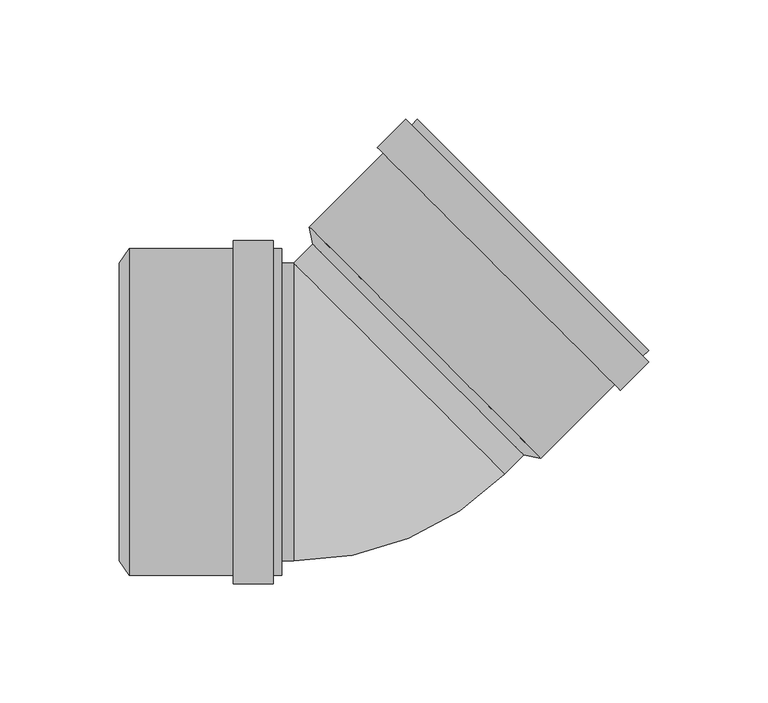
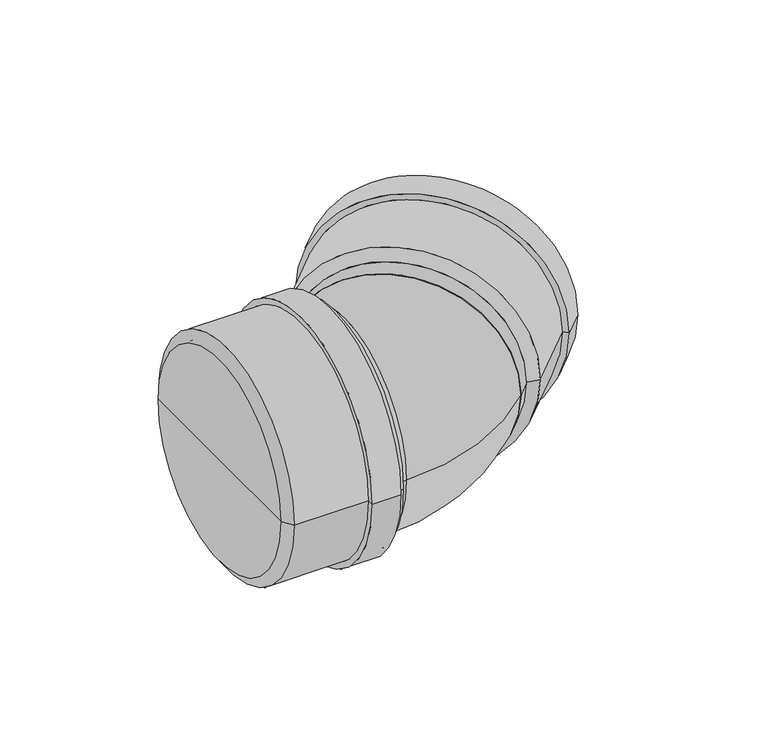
"""IFC4 building model written with IfcOpenShell, lengths in millimetres: pipe fitting geometry, pf_KGB : pf_KGB."""

from ifc_helpers import new_model, si_unit, point, frame, origin, origin_2d, place, context, project, spatial, polyline, circle_curve, ellipse_curve, trimmed, segment, composite_curve, outline, extrude, source, transform, mapped, element, save
from ifc_brep_helpers import plane_surface, cylinder_surface, revolved_surface, advanced_brep


def pipe_fitting_ef111def(model_context):
    return source(origin(), model_context, "Body", "SolidModel", [
        advanced_brep(
        [(70.4278354, -17.9605122, 0.0), (-17.9605122, 70.4278354, 0.0), (-19.3747258, 77.6403246, 0.0), (77.6403246, -19.3747258, 0.0), (26.2336616, 26.2336616, 0.0), (122.8244479, 25.8093975, 0.0), (25.8093975, 122.8244479, 0.0), (30.1227489, 118.5110965, 0.0), (118.5110965, 30.1227489, 0.0), (23.4052345, 120.4202848, 0.0), (120.4202848, 23.4052345, 0.0), (21.0010714, 122.8244479, 0.0), (122.8244479, 21.0010714, 0.0), (9.1216775, 110.945054, 0.0), (110.945054, 9.1216775, 0.0), (11.5258405, 108.5408909, 0.0), (108.5408909, 11.5258405, 0.0), (73.3269732, -15.0613744, 0.0), (-15.0613744, 73.3269732, 0.0), (29.1327994, 29.1327994, 0.0)],
        [
            (0, 1, circle_curve(frame((26.2336616, 26.2336616, 0.0), z_axis=(0.7071067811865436, 0.7071067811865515, 0.0), x_axis=(-0.7071067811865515, 0.7071067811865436, 0.0)), 62.5)),
            (1, 2),
            (2, 3, circle_curve(frame((29.1327994, 29.1327994, 0.0), z_axis=(-0.7071067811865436, -0.7071067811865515, 0.0), x_axis=(-0.7071067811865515, 0.7071067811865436, 0.0)), 68.6)),
            (3, 0),
            (1, 0, circle_curve(frame((26.2336616, 26.2336616, 0.0), z_axis=(0.7071067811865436, 0.7071067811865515, 0.0), x_axis=(-0.7071067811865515, 0.7071067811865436, 0.0)), 62.5)),
            (3, 2, circle_curve(frame((29.1327994, 29.1327994, 0.0), z_axis=(-0.7071067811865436, -0.7071067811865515, 0.0), x_axis=(-0.7071067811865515, 0.7071067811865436, 0.0)), 68.6)),
            (4, 1),
            (0, 4),
            (5, 6, circle_curve(frame((74.3169227, 74.3169227, 0.0), z_axis=(0.7071067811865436, 0.7071067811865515, 0.0), x_axis=(-0.7071067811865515, 0.7071067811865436, 0.0)), 68.6)),
            (6, 7),
            (7, 8, circle_curve(frame((74.3169227, 74.3169227, 0.0), z_axis=(-0.7071067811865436, -0.7071067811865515, 0.0), x_axis=(-0.7071067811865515, 0.7071067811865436, 0.0)), 62.5)),
            (8, 5),
            (9, 10, circle_curve(frame((71.9127596, 71.9127596, 0.0), z_axis=(0.7071067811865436, 0.7071067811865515, 0.0), x_axis=(-0.7071067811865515, 0.7071067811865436, 0.0)), 68.6)),
            (10, 5),
            (5, 6, circle_curve(frame((74.3169227, 74.3169227, 0.0), z_axis=(-0.7071067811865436, -0.7071067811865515, 0.0), x_axis=(-0.7071067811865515, 0.7071067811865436, 0.0)), 68.6)),
            (6, 9),
            (11, 12, circle_curve(frame((71.9127596, 71.9127596, 0.0), z_axis=(0.7071067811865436, 0.7071067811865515, 0.0), x_axis=(-0.7071067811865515, 0.7071067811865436, 0.0)), 72.0)),
            (12, 10),
            (9, 11),
            (13, 14, circle_curve(frame((60.0333657, 60.0333657, 0.0), z_axis=(0.7071067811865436, 0.7071067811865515, 0.0), x_axis=(-0.7071067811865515, 0.7071067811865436, 0.0)), 72.0)),
            (14, 12),
            (11, 13),
            (15, 16, circle_curve(frame((60.0333657, 60.0333657, 0.0), z_axis=(0.7071067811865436, 0.7071067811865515, 0.0), x_axis=(-0.7071067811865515, 0.7071067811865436, 0.0)), 68.6)),
            (16, 14),
            (13, 15),
            (8, 7, circle_curve(frame((74.3169227, 74.3169227, 0.0), z_axis=(-0.7071067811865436, -0.7071067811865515, 0.0), x_axis=(-0.7071067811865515, 0.7071067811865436, 0.0)), 62.5)),
            (10, 9, circle_curve(frame((71.9127596, 71.9127596, 0.0), z_axis=(0.7071067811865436, 0.7071067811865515, 0.0), x_axis=(-0.7071067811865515, 0.7071067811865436, 0.0)), 68.6)),
            (12, 11, circle_curve(frame((71.9127596, 71.9127596, 0.0), z_axis=(0.7071067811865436, 0.7071067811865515, 0.0), x_axis=(-0.7071067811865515, 0.7071067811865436, 0.0)), 72.0)),
            (14, 13, circle_curve(frame((60.0333657, 60.0333657, 0.0), z_axis=(0.7071067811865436, 0.7071067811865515, 0.0), x_axis=(-0.7071067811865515, 0.7071067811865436, 0.0)), 72.0)),
            (16, 15, circle_curve(frame((60.0333657, 60.0333657, 0.0), z_axis=(0.7071067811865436, 0.7071067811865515, 0.0), x_axis=(-0.7071067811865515, 0.7071067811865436, 0.0)), 68.6)),
            (2, 15),
            (16, 3),
            (17, 18, circle_curve(frame((29.1327994, 29.1327994, 0.0), z_axis=(0.7071067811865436, 0.7071067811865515, 0.0), x_axis=(-0.7071067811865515, 0.7071067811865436, 0.0)), 62.5)),
            (18, 19),
            (19, 17),
            (18, 17, circle_curve(frame((29.1327994, 29.1327994, 0.0), z_axis=(0.7071067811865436, 0.7071067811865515, 0.0), x_axis=(-0.7071067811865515, 0.7071067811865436, 0.0)), 62.5)),
            (7, 18),
            (17, 8),
        ],
        [
            revolved_surface(polyline([(-19.3747258, 77.6403246, 0.0), (-17.9605122, 70.4278354, 0.0)]), (26.2336616, 26.2336616, 0.0), (-0.7071067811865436, -0.7071067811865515, 0.0)),
            plane_surface(frame((26.2336616, 26.2336616, 0.0), z_axis=(-0.7071067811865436, -0.7071067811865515, 0.0), x_axis=(-0.7071067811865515, 0.7071067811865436, 0.0))),
            plane_surface(frame((74.3169227, 74.3169227, 0.0), z_axis=(0.7071067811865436, 0.7071067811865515, 0.0), x_axis=(-0.7071067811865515, 0.7071067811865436, 0.0))),
            cylinder_surface(frame((26.2336616, 26.2336616, 0.0), z_axis=(-0.7071067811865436, -0.7071067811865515, 0.0), x_axis=(-0.7071067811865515, 0.7071067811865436, 0.0)), 68.6),
            plane_surface(frame((71.9127596, 71.9127596, 0.0), z_axis=(0.7071067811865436, 0.7071067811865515, 0.0), x_axis=(-0.7071067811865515, 0.7071067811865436, 0.0))),
            cylinder_surface(frame((26.2336616, 26.2336616, 0.0), z_axis=(-0.7071067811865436, -0.7071067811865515, 0.0), x_axis=(-0.7071067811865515, 0.7071067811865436, 0.0)), 72.0),
            plane_surface(frame((60.0333657, 60.0333657, 0.0), z_axis=(-0.7071067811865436, -0.7071067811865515, 0.0), x_axis=(-0.7071067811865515, 0.7071067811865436, 0.0))),
            plane_surface(frame((29.1327994, 29.1327994, 0.0), z_axis=(0.7071067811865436, 0.7071067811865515, 0.0), x_axis=(-0.7071067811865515, 0.7071067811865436, 0.0))),
            revolved_surface(polyline([(-15.06137442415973, 73.32697322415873, 0.0), (30.122748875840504, 118.51109652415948, 0.0)]), (26.2336616, 26.2336616, 0.0), (-0.7071067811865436, -0.7071067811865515, 0.0)),
        ],
        [
            (0, [[1, 2, 3, 4]]),
            (0, [[5, -4, 6, -2]]),
            (1, [[7, -1, 8]]),
            (1, [[-8, -5, -7]]),
            (2, [[9, 10, 11, 12]]),
            (3, [[13, 14, 15, 16]]),
            (4, [[17, 18, -13, 19]]),
            (5, [[20, 21, -17, 22]]),
            (6, [[23, 24, -20, 25]]),
            (2, [[-15, -12, 26, -10]]),
            (3, [[27, -16, -9, -14]]),
            (4, [[28, -19, -27, -18]]),
            (5, [[29, -22, -28, -21]]),
            (6, [[30, -25, -29, -24]]),
            (3, [[-3, 31, -30, 32]]),
            (3, [[-6, -32, -23, -31]]),
            (7, [[33, 34, 35]]),
            (7, [[36, -35, -34]]),
            (8, [[-11, 37, -33, 38]]),
            (8, [[-26, -38, -36, -37]]),
        ],
    ),
        advanced_brep(
        [(-99.1, -62.5, 0.0), (-99.1, 62.5, 0.0), (-95.0, 68.6, 0.0), (-95.0, -68.6, 0.0), (-99.1, 0.0, 0.0), (-31.1, -68.6, 0.0), (-31.1, 68.6, 0.0), (-31.1, 62.5, 0.0), (-31.1, -62.5, 0.0), (-34.5, 68.6, 0.0), (-34.5, -68.6, 0.0), (-34.5, 72.0, 0.0), (-34.5, -72.0, 0.0), (-51.3, 72.0, 0.0), (-51.3, -72.0, 0.0), (-51.3, 68.6, 0.0), (-51.3, -68.6, 0.0), (-95.0, -62.5, 0.0), (-95.0, 62.5, 0.0), (-95.0, 0.0, 0.0)],
        [
            (0, 1, circle_curve(frame((-99.1, 0.0, 0.0), z_axis=(1.0, 0.0, 0.0), x_axis=(0.0, 1.0, 0.0)), 62.5)),
            (1, 2),
            (2, 3, circle_curve(frame((-95.0, 0.0, 0.0), z_axis=(-1.0, 0.0, 0.0), x_axis=(0.0, 1.0, 0.0)), 68.6)),
            (3, 0),
            (1, 0, circle_curve(frame((-99.1, 0.0, 0.0), z_axis=(1.0, 0.0, 0.0), x_axis=(0.0, 1.0, 0.0)), 62.5)),
            (3, 2, circle_curve(frame((-95.0, 0.0, 0.0), z_axis=(-1.0, 0.0, 0.0), x_axis=(0.0, 1.0, 0.0)), 68.6)),
            (4, 1),
            (0, 4),
            (5, 6, circle_curve(frame((-31.1, 0.0, 0.0), z_axis=(1.0, 0.0, 0.0), x_axis=(0.0, 1.0, 0.0)), 68.6)),
            (6, 7),
            (7, 8, circle_curve(frame((-31.1, 0.0, 0.0), z_axis=(-1.0, 0.0, 0.0), x_axis=(0.0, 1.0, 0.0)), 62.5)),
            (8, 5),
            (9, 10, circle_curve(frame((-34.5, 0.0, 0.0), z_axis=(1.0, 0.0, 0.0), x_axis=(0.0, 1.0, 0.0)), 68.6)),
            (10, 5),
            (5, 6, circle_curve(frame((-31.1, 0.0, 0.0), z_axis=(-1.0, 0.0, 0.0), x_axis=(0.0, 1.0, 0.0)), 68.6)),
            (6, 9),
            (11, 12, circle_curve(frame((-34.5, 0.0, 0.0), z_axis=(1.0, 0.0, 0.0), x_axis=(0.0, 1.0, 0.0)), 72.0)),
            (12, 10),
            (9, 11),
            (13, 14, circle_curve(frame((-51.3, 0.0, 0.0), z_axis=(1.0, 0.0, 0.0), x_axis=(0.0, 1.0, 0.0)), 72.0)),
            (14, 12),
            (11, 13),
            (15, 16, circle_curve(frame((-51.3, 0.0, 0.0), z_axis=(1.0, 0.0, 0.0), x_axis=(0.0, 1.0, 0.0)), 68.6)),
            (16, 14),
            (13, 15),
            (8, 7, circle_curve(frame((-31.1, 0.0, 0.0), z_axis=(-1.0, 0.0, 0.0), x_axis=(0.0, 1.0, 0.0)), 62.5)),
            (10, 9, circle_curve(frame((-34.5, 0.0, 0.0), z_axis=(1.0, 0.0, 0.0), x_axis=(0.0, 1.0, 0.0)), 68.6)),
            (12, 11, circle_curve(frame((-34.5, 0.0, 0.0), z_axis=(1.0, 0.0, 0.0), x_axis=(0.0, 1.0, 0.0)), 72.0)),
            (14, 13, circle_curve(frame((-51.3, 0.0, 0.0), z_axis=(1.0, 0.0, 0.0), x_axis=(0.0, 1.0, 0.0)), 72.0)),
            (16, 15, circle_curve(frame((-51.3, 0.0, 0.0), z_axis=(1.0, 0.0, 0.0), x_axis=(0.0, 1.0, 0.0)), 68.6)),
            (2, 15),
            (16, 3),
            (17, 18, circle_curve(frame((-95.0, 0.0, 0.0), z_axis=(1.0, 0.0, 0.0), x_axis=(0.0, 1.0, 0.0)), 62.5)),
            (18, 19),
            (19, 17),
            (18, 17, circle_curve(frame((-95.0, 0.0, 0.0), z_axis=(1.0, 0.0, 0.0), x_axis=(0.0, 1.0, 0.0)), 62.5)),
            (7, 18),
            (17, 8),
        ],
        [
            revolved_surface(polyline([(-95.0, 68.6, 0.0), (-99.1, 62.5, 0.0)]), (-99.1, 0.0, 0.0), (-1.0, 0.0, 0.0)),
            plane_surface(frame((-99.1, 0.0, 0.0), z_axis=(-1.0, 0.0, 0.0), x_axis=(0.0, 1.0, 0.0))),
            plane_surface(frame((-31.1, 0.0, 0.0), z_axis=(1.0, 0.0, 0.0), x_axis=(0.0, 1.0, 0.0))),
            cylinder_surface(frame((-99.1, 0.0, 0.0), z_axis=(-1.0, 0.0, 0.0), x_axis=(0.0, 1.0, 0.0)), 68.6),
            plane_surface(frame((-34.5, 0.0, 0.0), z_axis=(1.0, 0.0, 0.0), x_axis=(0.0, 1.0, 0.0))),
            cylinder_surface(frame((-99.1, 0.0, 0.0), z_axis=(-1.0, 0.0, 0.0), x_axis=(0.0, 1.0, 0.0)), 72.0),
            plane_surface(frame((-51.3, 0.0, 0.0), z_axis=(-1.0, 0.0, 0.0), x_axis=(0.0, 1.0, 0.0))),
            plane_surface(frame((-95.0, 0.0, 0.0), z_axis=(1.0, 0.0, 0.0), x_axis=(0.0, 1.0, 0.0))),
            revolved_surface(polyline([(-95.0, 62.5, 0.0), (-31.099999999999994, 62.5, 0.0)]), (-99.1, 0.0, 0.0), (-1.0, 0.0, 0.0)),
        ],
        [
            (0, [[1, 2, 3, 4]]),
            (0, [[5, -4, 6, -2]]),
            (1, [[7, -1, 8]]),
            (1, [[-8, -5, -7]]),
            (2, [[9, 10, 11, 12]]),
            (3, [[13, 14, 15, 16]]),
            (4, [[17, 18, -13, 19]]),
            (5, [[20, 21, -17, 22]]),
            (6, [[23, 24, -20, 25]]),
            (2, [[-15, -12, 26, -10]]),
            (3, [[27, -16, -9, -14]]),
            (4, [[28, -19, -27, -18]]),
            (5, [[29, -22, -28, -21]]),
            (6, [[30, -25, -29, -24]]),
            (3, [[-3, 31, -30, 32]]),
            (3, [[-6, -32, -23, -31]]),
            (7, [[33, 34, 35]]),
            (7, [[36, -35, -34]]),
            (8, [[-11, 37, -33, 38]]),
            (8, [[-26, -38, -36, -37]]),
        ],
    ),
        extrude(outline(composite_curve([segment(trimmed(circle_curve(origin_2d(), 62.5), [point((0.0, -62.5))], [point((0.0, 62.5))], False, "CARTESIAN"), True, "CONTINUOUS"), segment(trimmed(circle_curve(origin_2d(), 62.5), [point((0.0, 62.5))], [point((0.0, -62.5))], False, "CARTESIAN"), True, "CONTINUOUS")], self_intersect=False)), frame((18.3058262, 18.3058262, 0.0), z_axis=(0.7071067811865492, 0.7071067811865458, 0.0), x_axis=(0.0, 0.0, 1.0)), (0.0, 0.0, 1.0), 11.2116524),
        extrude(outline(composite_curve([segment(trimmed(circle_curve(origin_2d(), 62.5), [point((-62.5, 0.0))], [point((62.5, 0.0))], False, "CARTESIAN"), True, "CONTINUOUS"), segment(trimmed(circle_curve(origin_2d(), 62.5), [point((62.5, 0.0))], [point((-62.5, 0.0))], False, "CARTESIAN"), True, "CONTINUOUS")], self_intersect=False)), frame((-95.0, 0.0, 0.0), z_axis=(1.0, 0.0, 0.0), x_axis=(0.0, 1.0, 0.0)), (0.0, 0.0, 1.0), 69.1116524),
        advanced_brep(
        [(-25.8883476, -62.5, 0.0), (-25.8883476, 62.5, 0.0), (62.5, -25.8883476, 0.0)],
        [
            (0, 1, circle_curve(frame((-25.8883476, 0.0, 0.0), z_axis=(-1.0, 0.0, 0.0), x_axis=(0.0, 1.0, 0.0)), 62.5)),
            (1, 0, circle_curve(frame((-25.8883476, 0.0, 0.0), z_axis=(-1.0, 0.0, 0.0), x_axis=(0.0, 1.0, 0.0)), 62.5)),
            (2, 1, circle_curve(frame((18.3058262, 18.3058262, 0.0), z_axis=(0.7071067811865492, 0.7071067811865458, 0.0), x_axis=(-0.7071067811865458, 0.7071067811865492, 0.0)), 62.5)),
            (1, 2, circle_curve(frame((18.3058262, 18.3058262, 0.0), z_axis=(0.7071067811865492, 0.7071067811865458, 0.0), x_axis=(-0.7071067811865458, 0.7071067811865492, 0.0)), 62.5)),
            (2, 0, circle_curve(frame((-25.8883476, 62.5, 0.0), z_axis=(0.0, 0.0, -1.0), x_axis=(0.0, -1.0, 0.0)), 125.0)),
        ],
        [
            plane_surface(frame((-25.8883476, 62.5, -14.8), z_axis=(-1.0, 0.0, 0.0), x_axis=(0.0, -1.0, 0.0))),
            plane_surface(frame((-25.8883476, 62.5, -14.8), z_axis=(0.7071067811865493, 0.7071067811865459, 0.0), x_axis=(0.7071067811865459, -0.7071067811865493, 0.0))),
            revolved_surface(trimmed(ellipse_curve(frame((-25.8883476, 0.0, 0.0), z_axis=(1.0, 0.0, 0.0), x_axis=(0.0, 1.0, 0.0)), 62.5, 62.5), [point((-25.8883476, -62.5, 0.0))], [point((-25.8883476, 62.5, 0.0))], True, "CARTESIAN"), (-25.8883476, 62.5, -14.8), (0.0, 0.0, -1.0)),
            revolved_surface(trimmed(ellipse_curve(frame((-25.8883476, 0.0, 0.0), z_axis=(1.0, 0.0, 0.0), x_axis=(0.0, 1.0, 0.0)), 62.5, 62.5), [point((-25.8883476, 62.5, 0.0))], [point((-25.8883476, -62.5, 0.0))], True, "CARTESIAN"), (-25.8883476, 62.5, -14.8), (0.0, 0.0, -1.0)),
        ],
        [
            (0, [[1, 2]]),
            (1, [[3, 4]]),
            (2, [[5, -2, -3]]),
            (3, [[-1, -5, -4]]),
        ],
    ),
    ])


if __name__ == "__main__":
    model = new_model("IFC4")
    model_context = context("Model", 3, world=origin())
    ifc_project = project(units=[si_unit("LENGTHUNIT", "METRE", prefix="MILLI")], contexts=[model_context])
    site = spatial("IfcSite", under=ifc_project)
    building = spatial("IfcBuilding", under=site)
    placement = place(None, origin())
    pipe_fitting_shape = pipe_fitting_ef111def(model_context)
    element("IfcPipeFitting", 1, ObjectType="pf_KGB : pf_KGB", at=placement, inside=building, context=model_context, shape_type="MappedRepresentation", body=[
        mapped(pipe_fitting_shape, transform((0.0, 0.0, 0.0), x_axis=(1.0, 0.0, 0.0), y_axis=(0.0, 1.0, 0.0), z_axis=(0.0, 0.0, 1.0))),
    ])
    save(model, "model.ifc")
